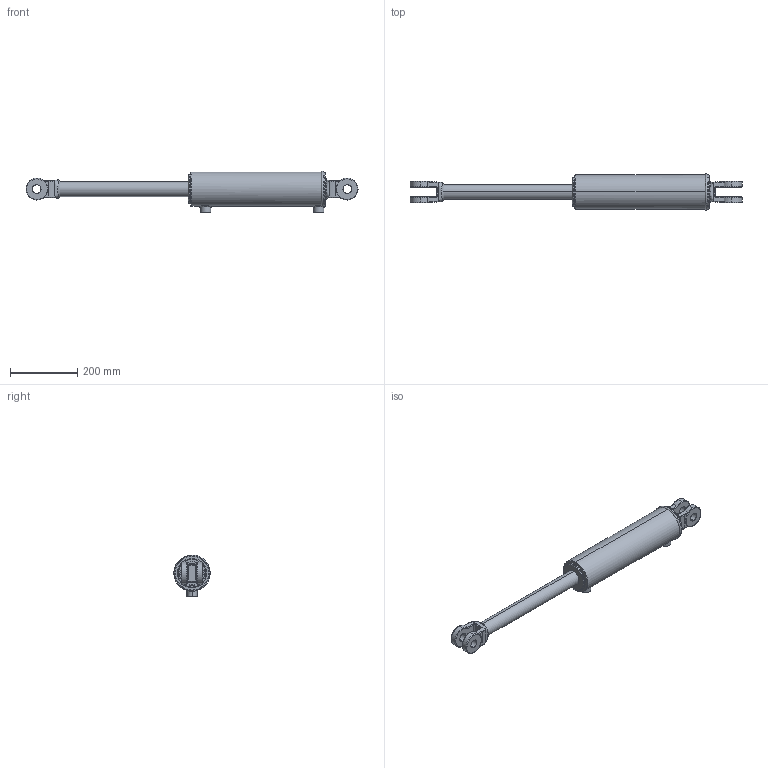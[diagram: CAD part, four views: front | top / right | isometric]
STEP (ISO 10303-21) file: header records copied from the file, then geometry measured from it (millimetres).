
FILE_DESCRIPTION (( 'STEP AP203' ), '1' );
FILE_NAME ('CL-CL350175x305 (12) extended.STEP', '2014-11-22T16:32:05', ( '' ), ( '' ), 'SwSTEP 2.0', 'SolidWorks 2014', '' );
FILE_SCHEMA (( 'CONFIG_CONTROL_DESIGN' ));
Length unit declared in the file: millimetre
Products named in the file (4): SPARE 6_12x1.75; CL-CL350175x305 (12) extended; CL-CL300150x  body_3.5x12; 3 in ext circlip
Assembly tree (3 placements, depth 2):
  CL-CL350175x305 (12) extended
    CL-CL300150x  body_3.5x12
    3 in ext circlip
    SPARE 6_12x1.75
Bounding box: 984.39 x 107.32 x 124.49 mm (x, y, z)
Volume: 3833031.7 mm3; surface area: 313966.8 mm2
Topology: 3 solids, 3 shells, 211 faces, 518 edges, 319 vertices
Faces by surface type: cylinder 91, bspline 59, plane 38, torus 15, cone 8
Entity records: 11321 total; most frequent: CARTESIAN_POINT 6234, ORIENTED_EDGE 1028, DIRECTION 941, EDGE_CURVE 514, AXIS2_PLACEMENT_3D 393, VERTEX_POINT 319, CIRCLE 235, EDGE_LOOP 233
